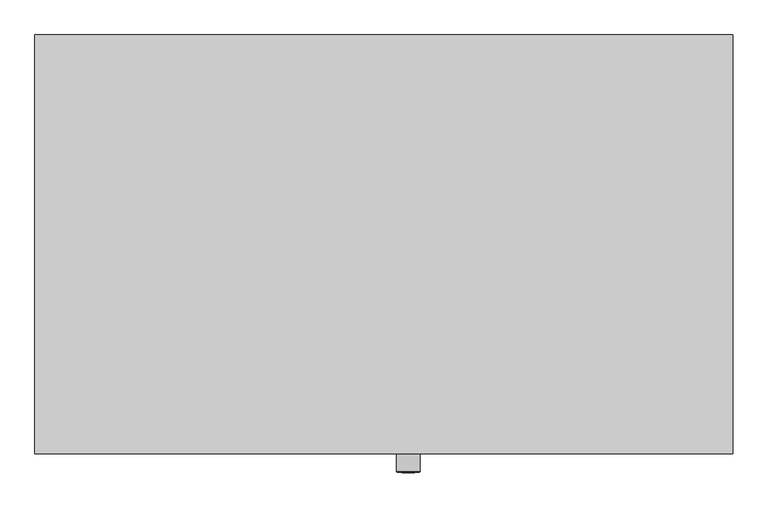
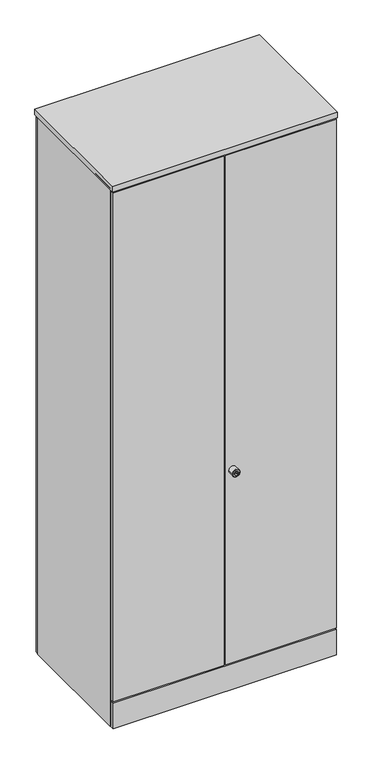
"""IFC4 building model written with IfcOpenShell, lengths in millimetres: furniture geometry, Furniture_Storage_Spacestor_SignatureStoragewall : Coats Cupboard."""

import ifcopenshell
import ifcopenshell.guid

model = None  # the IFC model being written
_history = None  # IfcOwnerHistory: only IFC2X3 demands one
_inside = {}  # id of a spatial element -> (the spatial element, [elements in it])
_under = {}  # id of a project, library or spatial element -> (it, [spatial elements below it])
_declared = {}  # id of a project -> (the project, [libraries it declares])
_typed = {}  # id of a type object -> (the type object, [elements of that type])
_made_of = {}  # id of a material, layer set ... -> (it, [elements and type objects made of it])


def new_model(schema):
    """Start an empty IFC model of exactly this schema.

    Asked for "IFC4X3", IfcOpenShell would pick the latest addendum, in which some entities
    have other attributes; the version numbers below select the first issue.
    IFC2X3 requires an IfcOwnerHistory on every rooted entity: one is made here for all.
    """
    global model, _history
    if schema == "IFC4X3":
        model = ifcopenshell.file(schema_version=(4, 3, 0, 0))
    else:
        model = ifcopenshell.file(schema=schema)
    _inside.clear()
    _under.clear()
    _declared.clear()
    _typed.clear()
    _made_of.clear()
    _history = None
    if model.schema == "IFC2X3":
        org = make("IfcOrganization", Name="unknown")
        user = make(
            "IfcPersonAndOrganization",
            ThePerson=make("IfcPerson", FamilyName="unknown"),
            TheOrganization=org,
        )
        app = make(
            "IfcApplication",
            ApplicationDeveloper=org,
            Version="unknown",
            ApplicationFullName="unknown",
            ApplicationIdentifier="unknown",
        )
        _history = make(
            "IfcOwnerHistory",
            OwningUser=user,
            OwningApplication=app,
            ChangeAction="ADDED",
            CreationDate=0,
        )
    return model


def make(cls, **values):
    """One entity of the class cls with the attributes given. An attribute that is None is left unset."""
    return model.create_entity(
        cls, **{name: value for name, value in values.items() if value is not None}
    )


def rooted(cls, **values):
    """An entity with a GlobalId (a new one), such as an element, a storey or a relation."""
    return make(cls, GlobalId=ifcopenshell.guid.new(), OwnerHistory=_history, **values)


def si_unit(unit_type, name, prefix=None):
    """IfcSIUnit, for example si_unit("LENGTHUNIT", "METRE", prefix="MILLI")."""
    return make("IfcSIUnit", UnitType=unit_type, Prefix=prefix, Name=name)


def assignment(units):
    """IfcUnitAssignment: the units of a project."""
    return None if units is None else make("IfcUnitAssignment", Units=units)


def point(xyz):
    """IfcCartesianPoint."""
    return None if xyz is None else make("IfcCartesianPoint", Coordinates=xyz)


def direction(xyz):
    """IfcDirection."""
    return None if xyz is None else make("IfcDirection", DirectionRatios=xyz)


def frame(location, z_axis=None, x_axis=None):
    """IfcAxis2Placement3D, a coordinate frame: its origin and axes. An axis left out is left unset."""
    return make(
        "IfcAxis2Placement3D",
        Location=point(location),
        Axis=direction(z_axis),
        RefDirection=direction(x_axis),
    )


def origin():
    """The frame at (0, 0, 0) with its axes left unset."""
    return frame((0.0, 0.0, 0.0))


def origin_with_axes():
    """The frame at (0, 0, 0) with the z axis (0, 0, 1) and the x axis (1, 0, 0) written out."""
    return frame((0.0, 0.0, 0.0), z_axis=(0.0, 0.0, 1.0), x_axis=(1.0, 0.0, 0.0))


def place(relative_to, where):
    """IfcLocalPlacement: puts the frame where relative to a parent placement (None: the world)."""
    return make(
        "IfcLocalPlacement", PlacementRelTo=relative_to, RelativePlacement=where
    )


def context(
    kind, dimensions, precision=None, world=None, true_north=None, identifier=None
):
    """IfcGeometricRepresentationContext, for example the 3D "Model" context."""
    return make(
        "IfcGeometricRepresentationContext",
        ContextIdentifier=identifier,
        ContextType=kind,
        CoordinateSpaceDimension=dimensions,
        Precision=precision,
        WorldCoordinateSystem=world,
        TrueNorth=true_north,
    )


def project(units=None, contexts=None):
    """IfcProject with its units and contexts."""
    return rooted(
        "IfcProject",
        Name="project",
        RepresentationContexts=contexts,
        UnitsInContext=assignment(units),
    )


def spatial(cls, under=None, at=None, **own):
    """A site, building, storey or space (cls), placed at a placement, below another one or the project."""
    s = rooted(cls, ObjectPlacement=at, **own)
    if under is not None:
        _under.setdefault(under.id(), (under, []))[1].append(s)
    return s


def polyline(points):
    """IfcPolyline through the points."""
    return make("IfcPolyline", Points=[point(p) for p in points])


def circle_curve(where, radius):
    """IfcCircle in the frame where."""
    return make("IfcCircle", Position=where, Radius=radius)


def ellipse_curve(where, semi_axis1, semi_axis2):
    """IfcEllipse in the frame where."""
    return make(
        "IfcEllipse", Position=where, SemiAxis1=semi_axis1, SemiAxis2=semi_axis2
    )


def trimmed(basis, trim1, trim2, sense, master):
    """IfcTrimmedCurve: the piece of a basis curve between two trims."""
    return make(
        "IfcTrimmedCurve",
        BasisCurve=basis,
        Trim1=trim1,
        Trim2=trim2,
        SenseAgreement=sense,
        MasterRepresentation=master,
    )


def outline(outer, holes=None, kind="AREA"):
    """IfcArbitraryClosedProfileDef: a profile drawn as a closed curve; with holes, ...WithVoids."""
    if holes is None:
        return make("IfcArbitraryClosedProfileDef", ProfileType=kind, OuterCurve=outer)
    return make(
        "IfcArbitraryProfileDefWithVoids",
        ProfileType=kind,
        OuterCurve=outer,
        InnerCurves=holes,
    )


def extrude(swept, where, along, depth):
    """IfcExtrudedAreaSolid: the profile swept, set in the frame where, extruded along a direction by depth."""
    return make(
        "IfcExtrudedAreaSolid",
        SweptArea=swept,
        Position=where,
        ExtrudedDirection=direction(along),
        Depth=depth,
    )


def shape(context_of_items, identifier, shape_type, items):
    """IfcShapeRepresentation: the items that make up one representation, for example the "Body"."""
    return make(
        "IfcShapeRepresentation",
        ContextOfItems=context_of_items,
        RepresentationIdentifier=identifier,
        RepresentationType=shape_type,
        Items=items,
    )


def source(mapping_origin, context_of_items, identifier, shape_type, items):
    """IfcRepresentationMap: a shape defined once, which mapped items show again and again."""
    return make(
        "IfcRepresentationMap",
        MappingOrigin=mapping_origin,
        MappedRepresentation=shape(context_of_items, identifier, shape_type, items),
    )


def transform(
    local_origin,
    x_axis=None,
    y_axis=None,
    z_axis=None,
    scale=None,
    scale2=None,
    scale3=None,
    uniform=True,
):
    """IfcCartesianTransformationOperator3D, or its non-uniform kind. x_axis, y_axis, z_axis: its Axis1, 2, 3."""
    if uniform:
        return make(
            "IfcCartesianTransformationOperator3D",
            Axis1=direction(x_axis),
            Axis2=direction(y_axis),
            LocalOrigin=point(local_origin),
            Scale=scale,
            Axis3=direction(z_axis),
        )
    return make(
        "IfcCartesianTransformationOperator3DnonUniform",
        Axis1=direction(x_axis),
        Axis2=direction(y_axis),
        LocalOrigin=point(local_origin),
        Scale=scale,
        Axis3=direction(z_axis),
        Scale2=scale2,
        Scale3=scale3,
    )


def mapped(mapping_source, mapping_target):
    """IfcMappedItem: shows the shape of a source again, moved by a transform."""
    return make(
        "IfcMappedItem", MappingSource=mapping_source, MappingTarget=mapping_target
    )


def made_of(thing, what):
    """Note that an element or type object is made of a material, layer set ...; save() writes the relation."""
    if what is not None:
        _made_of.setdefault(what.id(), (what, []))[1].append(thing)
    return thing


def element(
    cls,
    number,
    at=None,
    inside=None,
    cuts=None,
    type_object=None,
    material=None,
    context=None,
    identifier="Body",
    shape_type=None,
    held_by="IfcProductDefinitionShape",
    body=None,
    shapes=None,
    **own,
):
    """One element of the class cls, such as IfcWall. Its Tag is "e" and its number.

    at: its placement. inside: the storey or other place that contains it. cuts: it is an
    opening in that element (IfcRelVoidsElement). A single representation is given by context,
    identifier, shape_type and body (its items); several are given by shapes. held_by: the class
    of the entity that holds the representations. save() writes the other relations.
    """
    e = rooted(cls, Tag="e%d" % number, ObjectPlacement=at, **own)
    if body is not None:
        shapes = [shape(context, identifier, shape_type, body)]
    if shapes is not None:
        e.Representation = make(held_by, Representations=shapes)
    if inside is not None:
        _inside.setdefault(inside.id(), (inside, []))[1].append(e)
    if cuts is not None:
        rooted(
            "IfcRelVoidsElement", RelatingBuildingElement=cuts, RelatedOpeningElement=e
        )
    if type_object is not None:
        _typed.setdefault(type_object.id(), (type_object, []))[1].append(e)
    return made_of(e, material)


def aggregate(whole, parts):
    """IfcRelAggregates: a whole, such as a stair, and the parts it consists of."""
    return rooted("IfcRelAggregates", RelatingObject=whole, RelatedObjects=parts)


def save(model, path):
    """Write the relations noted so far, then the file.

    IfcRelAggregates (storeys below a building ...), IfcRelContainedInSpatialStructure (elements
    in a storey), IfcRelDefinesByType, IfcRelAssociatesMaterial and IfcRelDeclares: one each for
    every whole, place, type object, material and project.
    """
    for whole, parts in _under.values():
        aggregate(whole, parts)
    for where, things in _inside.values():
        rooted(
            "IfcRelContainedInSpatialStructure",
            RelatedElements=things,
            RelatingStructure=where,
        )
    for kind, things in _typed.values():
        rooted("IfcRelDefinesByType", RelatedObjects=things, RelatingType=kind)
    for what, things in _made_of.values():
        rooted("IfcRelAssociatesMaterial", RelatedObjects=things, RelatingMaterial=what)
    for by, libraries in _declared.values():
        rooted("IfcRelDeclares", RelatingContext=by, RelatedDefinitions=libraries)
    model.write(path)


def plane_surface(at):
    """IfcPlane: the flat surface through the origin of the frame at, square to its z axis."""
    return make("IfcPlane", Position=at)


def cylinder_surface(at, radius):
    """IfcCylindricalSurface: all points at the distance radius from the z axis of the frame at."""
    return make("IfcCylindricalSurface", Position=at, Radius=radius)


def revolved_surface(curve, axis_point, axis_direction):
    """IfcSurfaceOfRevolution: the curve turned about the line through axis_point along axis_direction."""
    return make(
        "IfcSurfaceOfRevolution",
        SweptCurve=make("IfcArbitraryOpenProfileDef", ProfileType="CURVE", Curve=curve),
        AxisPosition=make("IfcAxis1Placement", Location=point(axis_point), Axis=direction(axis_direction)),
    )


def advanced_brep(points, edges, surfaces, faces):
    """IfcAdvancedBrep: a solid bounded by faces that lie on surfaces and meet in shared edges.

    An edge is (start, end): straight between two places in points (the first is 0);
    or (start, end, curve); or (start, end, curve, False) where it runs against its curve.
    A face is (place in surfaces, loops), or (place, loops, False) where it looks against
    its surface's normal. A loop lists edges by number (the first is 1), with a minus sign
    where the edge is run from its end to its start. The first loop is the outer one.
    """
    corners = [point(p) for p in points]
    vertices = [make("IfcVertexPoint", VertexGeometry=c) for c in corners]
    made = []
    for start, end, *more in edges:
        made.append(
            make(
                "IfcEdgeCurve",
                EdgeStart=vertices[start],
                EdgeEnd=vertices[end],
                EdgeGeometry=more[0] if more else make("IfcPolyline", Points=[corners[start], corners[end]]),
                SameSense=more[1] if len(more) > 1 else True,
            )
        )
    hull = []
    for where, loops, *sense in faces:
        bounds = []
        for j, loop in enumerate(loops):
            ring = [make("IfcOrientedEdge", EdgeElement=made[abs(k) - 1], Orientation=k > 0) for k in loop]
            bounds.append(
                make(
                    "IfcFaceOuterBound" if j == 0 else "IfcFaceBound",
                    Bound=make("IfcEdgeLoop", EdgeList=ring),
                    Orientation=True,
                )
            )
        hull.append(make("IfcAdvancedFace", Bounds=bounds, FaceSurface=surfaces[where], SameSense=sense[0] if sense else True))
    return make("IfcAdvancedBrep", Outer=make("IfcClosedShell", CfsFaces=hull))


def furniture_d6841995(model_context):
    return source(origin(), model_context, "Body", "SolidModel", [
        extrude(outline(polyline([(996.5, 559.0), (3.5, 559.0), (3.5, 577.0), (996.5, 577.0), (996.5, 559.0)])), origin_with_axes(), (0.0, 0.0, 1.0), 2518.0),
        extrude(outline(polyline([(996.5, -18.0), (3.5, -18.0), (3.5, 0.0), (996.5, 0.0), (996.5, -18.0)])), origin_with_axes(), (0.0, 0.0, 1.0), 118.0),
        extrude(outline(polyline([(1000.0, -20.5), (0.0, -20.5), (0.0, 579.5), (1000.0, 579.5), (1000.0, -20.5)])), frame((0.0, 0.0, 2525.0), z_axis=(0.0, 0.0, 1.0), x_axis=(1.0, 0.0, 0.0)), (0.0, 0.0, 1.0), 25.5),
        extrude(outline(polyline([(1000.0, 0.0), (989.0, 0.0), (989.0, 559.0), (1000.0, 559.0), (1000.0, 0.0)])), origin_with_axes(), (0.0, 0.0, 1.0), 2532.5),
        extrude(outline(polyline([(11.0, 0.0), (0.0, 0.0), (0.0, 559.0), (11.0, 559.0), (11.0, 0.0)])), origin_with_axes(), (0.0, 0.0, 1.0), 2532.5),
        advanced_brep(
        [(552.0, -45.3116344, 1032.0), (518.0, -45.3116344, 1032.0), (518.0, -18.0, 1032.0), (552.0, -18.0, 1032.0), (535.0, -18.0, 1032.0), (543.9747319, -46.3150077, 1032.0), (526.0252681, -46.3150077, 1032.0), (519.0033734, -46.3150077, 1032.0), (550.9966266, -46.3150077, 1032.0), (543.9747319, -47.4703043, 1032.0), (526.0252681, -47.4703043, 1032.0), (539.8245152, -47.4703043, 1032.0), (539.8245152, -47.4703043, 1030.6366562), (530.1754848, -47.4703043, 1030.6366562), (530.1754848, -47.4703043, 1032.0), (530.1754848, -47.4703043, 1033.3633438), (539.8245152, -47.4703043, 1033.3633438), (530.1754848, -27.8604291, 1030.6366562), (539.8245152, -27.8604291, 1030.6366562), (539.8245152, -27.8604291, 1033.3633438), (530.1754848, -27.8604291, 1033.3633438)],
        [
            (0, 1, circle_curve(frame((535.0, -45.3116344, 1032.0), z_axis=(0.0, 1.0, 0.0), x_axis=(-1.0, 0.0, 0.0)), 17.0)),
            (1, 2),
            (2, 3, circle_curve(frame((535.0, -18.0, 1032.0), z_axis=(0.0, -1.0, 0.0), x_axis=(-1.0, 0.0, 0.0)), 17.0)),
            (3, 0),
            (1, 0, circle_curve(frame((535.0, -45.3116344, 1032.0), z_axis=(0.0, 1.0, 0.0), x_axis=(-1.0, 0.0, 0.0)), 17.0)),
            (3, 2, circle_curve(frame((535.0, -18.0, 1032.0), z_axis=(0.0, -1.0, 0.0), x_axis=(-1.0, 0.0, 0.0)), 17.0)),
            (2, 4),
            (4, 3),
            (5, 6, circle_curve(frame((535.0, -46.3150077, 1032.0), z_axis=(0.0, 1.0, 0.0), x_axis=(-1.0, 0.0, 0.0)), 8.9747319)),
            (6, 7),
            (7, 8, circle_curve(frame((535.0, -46.3150077, 1032.0), z_axis=(0.0, -1.0, 0.0), x_axis=(-1.0, 0.0, 0.0)), 15.9966266)),
            (8, 5),
            (6, 5, circle_curve(frame((535.0, -46.3150077, 1032.0), z_axis=(0.0, 1.0, 0.0), x_axis=(-1.0, 0.0, 0.0)), 8.9747319)),
            (8, 7, circle_curve(frame((535.0, -46.3150077, 1032.0), z_axis=(0.0, -1.0, 0.0), x_axis=(-1.0, 0.0, 0.0)), 15.9966266)),
            (0, 8, circle_curve(frame((550.9966266, -45.3116344, 1032.0), z_axis=(0.0, 0.0, -1.0), x_axis=(1.0, 0.0, 0.0)), 1.0033734)),
            (7, 1, circle_curve(frame((519.0033734, -45.3116344, 1032.0), z_axis=(0.0, 0.0, -1.0), x_axis=(-1.0, 0.0, 0.0)), 1.0033734)),
            (5, 9),
            (9, 10, circle_curve(frame((535.0, -47.4703043, 1032.0), z_axis=(0.0, 1.0, 0.0), x_axis=(-1.0, 0.0, 0.0)), 8.9747319)),
            (10, 6),
            (10, 9, circle_curve(frame((535.0, -47.4703043, 1032.0), z_axis=(0.0, 1.0, 0.0), x_axis=(-1.0, 0.0, 0.0)), 8.9747319)),
            (9, 11),
            (11, 12),
            (12, 13),
            (13, 14),
            (14, 10),
            (14, 15),
            (15, 16),
            (16, 11),
            (17, 18),
            (18, 19),
            (19, 20),
            (20, 17),
            (17, 13),
            (12, 18),
            (16, 19),
            (15, 20),
        ],
        [
            cylinder_surface(frame((535.0, -2627.0581012, 1032.0), z_axis=(0.0, -1.0, 0.0), x_axis=(-1.0, 0.0, 0.0)), 17.0),
            plane_surface(frame((535.0, -18.0, 1032.0), z_axis=(0.0, 1.0, 0.0), x_axis=(-1.0, 0.0, 0.0))),
            plane_surface(frame((535.0, -46.3150077, 1032.0), z_axis=(0.0, -1.0, 0.0), x_axis=(-1.0, 0.0, 0.0))),
            revolved_surface(trimmed(ellipse_curve(frame((519.0033734, -45.3116344, 1032.0), z_axis=(0.0, 0.0, 1.0), x_axis=(-1.0, 0.0, 0.0)), 1.0033734, 1.0033734), [point((518.0, -45.3116344, 1032.0))], [point((519.0033734, -46.3150077, 1032.0))], True, "CARTESIAN"), (535.0, -2627.0581012, 1032.0), (0.0, -1.0, 0.0)),
            cylinder_surface(frame((535.0, -2627.0581012, 1032.0), z_axis=(0.0, -1.0, 0.0), x_axis=(-1.0, 0.0, 0.0)), 8.9747319),
            plane_surface(frame((535.0, -47.4703043, 1032.0), z_axis=(0.0, -1.0, 0.0), x_axis=(-1.0, 0.0, 0.0))),
            plane_surface(frame((539.4565249, -27.8604291, 1030.6366562), z_axis=(0.0, -1.0, 0.0), x_axis=(-1.0, 0.0, 0.0))),
            plane_surface(frame((530.1754848, -49.2046383, 1030.6366562), z_axis=(0.0, 0.0, 1.0), x_axis=(0.0, 1.0, 0.0))),
            plane_surface(frame((539.8245152, -49.2046383, 1030.6366562), z_axis=(-1.0, 0.0, 0.0), x_axis=(0.0, 1.0, 0.0))),
            plane_surface(frame((539.8245152, -49.2046383, 1033.3633438), z_axis=(0.0, 0.0, -1.0), x_axis=(0.0, 1.0, 0.0))),
            plane_surface(frame((530.1754848, -49.2046383, 1033.3633438), z_axis=(1.0, 0.0, 0.0), x_axis=(0.0, 1.0, 0.0))),
        ],
        [
            (0, [[1, 2, 3, 4]]),
            (0, [[-2, 5, -4, 6]]),
            (1, [[-3, 7, 8]]),
            (1, [[-6, -8, -7]]),
            (2, [[9, 10, 11, 12]]),
            (2, [[-10, 13, -12, 14]]),
            (3, [[-1, 15, -11, 16]]),
            (3, [[-5, -16, -14, -15]]),
            (4, [[-9, 17, 18, 19]]),
            (4, [[-13, -19, 20, -17]]),
            (5, [[-18, 21, 22, 23, 24, 25]]),
            (5, [[-20, -25, 26, 27, 28, -21]]),
            (6, [[29, 30, 31, 32]]),
            (7, [[-29, 33, -23, 34]]),
            (8, [[-30, -34, -22, -28, 35]]),
            (9, [[-31, -35, -27, 36]]),
            (10, [[-32, -36, -26, -24, -33]]),
        ],
    ),
        extrude(outline(polyline([(3.5, -18.0), (3.5, 0.0), (496.5, 0.0), (496.5, -18.0), (3.5, -18.0)])), frame((0.0, 0.0, 125.0), z_axis=(0.0, 0.0, 1.0), x_axis=(1.0, 0.0, 0.0)), (0.0, 0.0, 1.0), 2393.0),
        extrude(outline(polyline([(996.5, -18.0), (503.5, -18.0), (503.5, 0.0), (996.5, 0.0), (996.5, -18.0)])), frame((0.0, 0.0, 125.0), z_axis=(0.0, 0.0, 1.0), x_axis=(1.0, 0.0, 0.0)), (0.0, 0.0, 1.0), 2393.0),
        extrude(outline(polyline([(989.0, 0.0), (11.0, 0.0), (11.0, 559.0), (989.0, 559.0), (989.0, 0.0)])), frame((0.0, 0.0, 110.5), z_axis=(0.0, 0.0, 1.0), x_axis=(1.0, 0.0, 0.0)), (0.0, 0.0, 1.0), 22.0),
        extrude(outline(polyline([(989.0, 0.0), (11.0, 0.0), (11.0, 559.0), (989.0, 559.0), (989.0, 0.0)])), frame((0.0, 0.0, 2510.0), z_axis=(0.0, 0.0, 1.0), x_axis=(1.0, 0.0, 0.0)), (0.0, 0.0, 1.0), 22.0),
    ])


if __name__ == "__main__":
    model = new_model("IFC4")
    model_context = context("Model", 3, world=origin())
    ifc_project = project(units=[si_unit("LENGTHUNIT", "METRE", prefix="MILLI")], contexts=[model_context])
    site = spatial("IfcSite", under=ifc_project)
    building = spatial("IfcBuilding", under=site)
    placement = place(None, origin())
    furniture_shape = furniture_d6841995(model_context)
    element("IfcFurniture", 1, ObjectType="Furniture_Storage_Spacestor_SignatureStoragewall : Coats Cupboard", at=placement, inside=building, context=model_context, shape_type="MappedRepresentation", body=[
        mapped(furniture_shape, transform((0.0, 0.0, 0.0), x_axis=(1.0, 0.0, 0.0), y_axis=(0.0, 1.0, 0.0), z_axis=(0.0, 0.0, 1.0))),
    ])
    save(model, "model.ifc")
